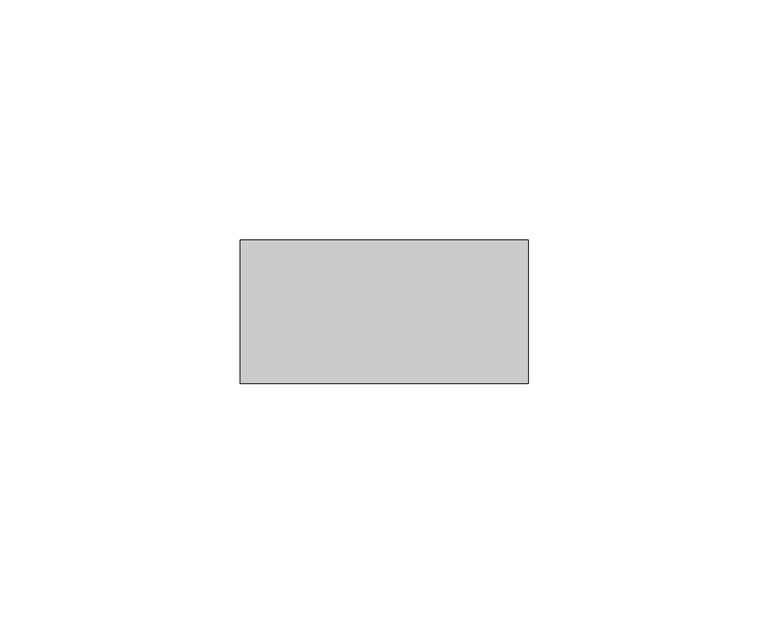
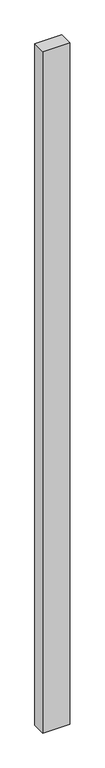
"""IFC4 building model written with IfcOpenShell, lengths in millimetres: member geometry, Прямоугольный импост : Квадрат 30 мм."""

from ifc_helpers import new_model, si_unit, frame, origin, place, context, project, spatial, polyline, outline, extrude, source, transform, mapped, element, save


def member_e0031c6d(model_context):
    return source(origin(), model_context, "Body", "SweptSolid", [
        extrude(outline(polyline([(30.0, 15.0), (30.0, -15.0), (-30.0, -15.0), (-30.0, 15.0), (30.0, 15.0)])), frame((0.0, 0.0, -1600.0), z_axis=(0.0, 0.0, 1.0), x_axis=(1.0, 0.0, 0.0)), (0.0, 0.0, 1.0), 1600.0),
    ])


if __name__ == "__main__":
    model = new_model("IFC4")
    model_context = context("Model", 3, world=origin())
    ifc_project = project(units=[si_unit("LENGTHUNIT", "METRE", prefix="MILLI")], contexts=[model_context])
    site = spatial("IfcSite", under=ifc_project)
    building = spatial("IfcBuilding", under=site)
    placement = place(None, origin())
    member_shape = member_e0031c6d(model_context)
    element("IfcMember", 1, ObjectType="Прямоугольный импост : Квадрат 30 мм", at=placement, inside=building, context=model_context, shape_type="MappedRepresentation", body=[
        mapped(member_shape, transform((0.0, 0.0, 0.0), x_axis=(1.0, 0.0, 0.0), y_axis=(0.0, 1.0, 0.0), z_axis=(0.0, 0.0, 1.0))),
    ])
    save(model, "model.ifc")
